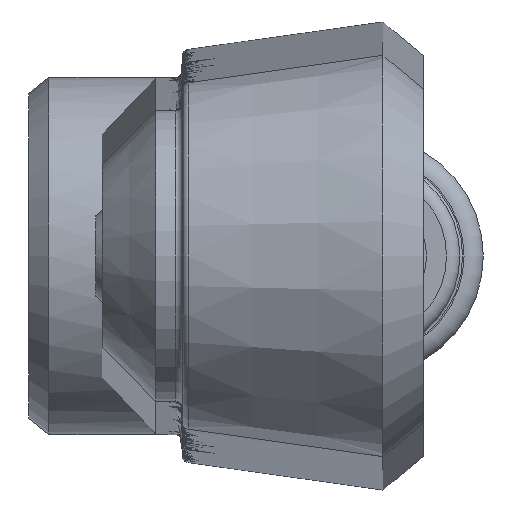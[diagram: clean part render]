
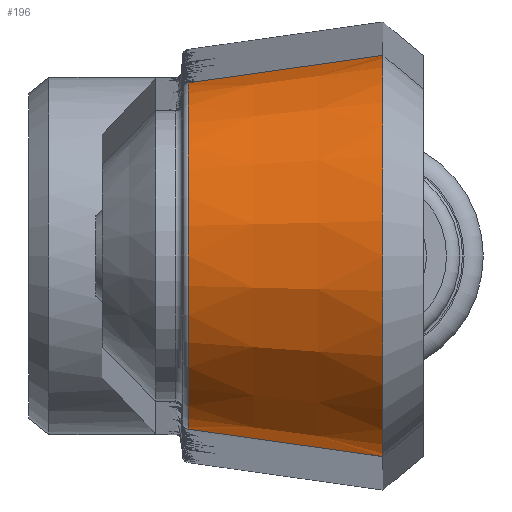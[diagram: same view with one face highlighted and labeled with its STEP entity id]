
A CAD part, front view. The second image highlights one B-rep face of the part: STEP entity #196.
In plain terms, the highlighted conical face has half-angle 8 degrees and reference radius 15 mm.
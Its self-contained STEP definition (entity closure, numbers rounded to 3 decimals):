
#196 = ADVANCED_FACE( '', ( #328 ), #329, .T. );
#328 = FACE_OUTER_BOUND( '', #608, .T. );
#329 = CONICAL_SURFACE( '', #609, 15., 0.14 );
#608 = EDGE_LOOP( '', ( #1014, #1015, #1016, #1017 ) );
#609 = AXIS2_PLACEMENT_3D( '', #1018, #1019, #1020 );
#1014 = ORIENTED_EDGE( '', *, *, #1644, .F. );
#1015 = ORIENTED_EDGE( '', *, *, #1637, .F. );
#1016 = ORIENTED_EDGE( '', *, *, #1645, .T. );
#1017 = ORIENTED_EDGE( '', *, *, #1615, .T. );
#1018 = CARTESIAN_POINT( '', ( 15.396, -100., 0. ) );
#1019 = DIRECTION( '', ( 1., 0., 0. ) );
#1020 = DIRECTION( '', ( 0., 0., -1. ) );
#1615 = EDGE_CURVE( '', #1923, #1921, #1924, .T. );
#1637 = EDGE_CURVE( '', #1959, #1961, #1962, .T. );
#1644 = EDGE_CURVE( '', #1961, #1921, #1972, .T. );
#1645 = EDGE_CURVE( '', #1959, #1923, #1973, .T. );
#1921 = VERTEX_POINT( '', #2487 );
#1923 = VERTEX_POINT( '', #2492 );
#1924 = B_SPLINE_CURVE_WITH_KNOTS( '', 3, ( #2493, #2494, #2495, #2496 ), .UNSPECIFIED., .F., .F., ( 4, 4 ), ( 0., 1. ), .UNSPECIFIED. );
#1959 = VERTEX_POINT( '', #2589 );
#1961 = VERTEX_POINT( '', #2592 );
#1962 = B_SPLINE_CURVE_WITH_KNOTS( '', 3, ( #2593, #2594, #2595, #2596 ), .UNSPECIFIED., .F., .F., ( 4, 4 ), ( 0., 0.782 ), .UNSPECIFIED. );
#1972 = CIRCLE( '', #2620, 12.953 );
#1973 = CIRCLE( '', #2621, 15. );
#2487 = CARTESIAN_POINT( '', ( 0.83, -100., 12.953 ) );
#2492 = CARTESIAN_POINT( '', ( 15.396, -100., 15. ) );
#2493 = CARTESIAN_POINT( '', ( 15.396, -100., 15. ) );
#2494 = CARTESIAN_POINT( '', ( 10.541, -100., 14.318 ) );
#2495 = CARTESIAN_POINT( '', ( 5.685, -100., 13.635 ) );
#2496 = CARTESIAN_POINT( '', ( 0.83, -100., 12.953 ) );
#2589 = CARTESIAN_POINT( '', ( 15.396, -100., -15. ) );
#2592 = CARTESIAN_POINT( '', ( 0.83, -100., -12.953 ) );
#2593 = CARTESIAN_POINT( '', ( 15.396, -100., -15. ) );
#2594 = CARTESIAN_POINT( '', ( 10.541, -100., -14.318 ) );
#2595 = CARTESIAN_POINT( '', ( 5.685, -100., -13.635 ) );
#2596 = CARTESIAN_POINT( '', ( 0.83, -100., -12.953 ) );
#2620 = AXIS2_PLACEMENT_3D( '', #2998, #2999, #3000 );
#2621 = AXIS2_PLACEMENT_3D( '', #3001, #3002, #3003 );
#2998 = CARTESIAN_POINT( '', ( 0.83, -100., 0. ) );
#2999 = DIRECTION( '', ( -1., 0., 0. ) );
#3000 = DIRECTION( '', ( 0., 0., 1. ) );
#3001 = CARTESIAN_POINT( '', ( 15.396, -100., 0. ) );
#3002 = DIRECTION( '', ( -1., 0., 0. ) );
#3003 = DIRECTION( '', ( 0., 0., 1. ) );
